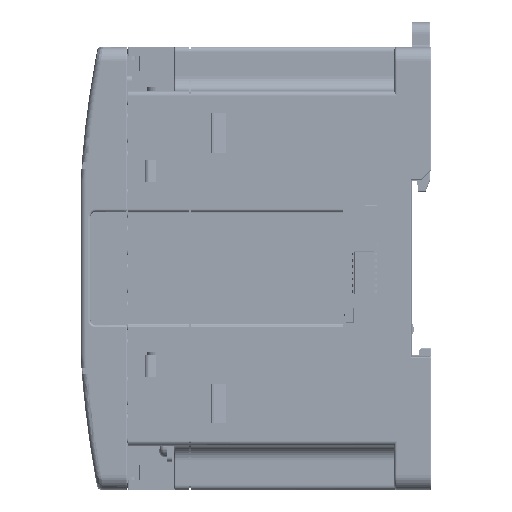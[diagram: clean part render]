
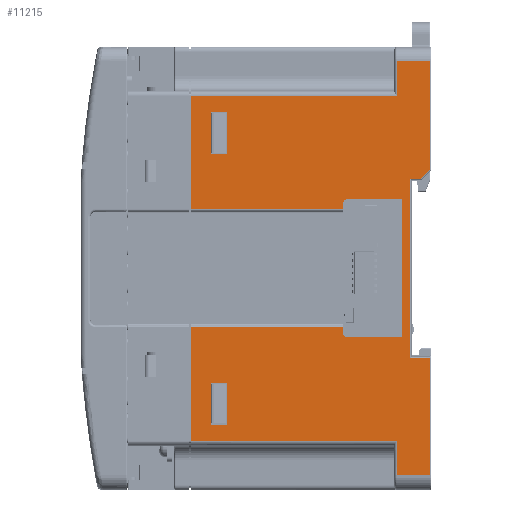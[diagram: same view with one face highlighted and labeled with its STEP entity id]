
A CAD part, left-side view. The second image highlights one B-rep face of the part: STEP entity #11215.
In plain terms, the highlighted planar face has unit normal (-1, 0, 0).
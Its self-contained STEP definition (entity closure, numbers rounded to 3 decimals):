
#285=DIRECTION('',(0.,-1.,0.));
#286=VECTOR('',#285,3.3);
#287=CARTESIAN_POINT('',(-32.,44.8,-31.75));
#288=LINE('',#287,#286);
#289=DIRECTION('',(0.,0.,1.));
#290=VECTOR('',#289,8.5);
#291=CARTESIAN_POINT('',(-32.,41.5,-31.75));
#292=LINE('',#291,#290);
#293=DIRECTION('',(0.,1.,0.));
#294=VECTOR('',#293,3.3);
#295=CARTESIAN_POINT('',(-32.,41.5,-23.25));
#296=LINE('',#295,#294);
#297=DIRECTION('',(0.,0.,-1.));
#298=VECTOR('',#297,8.5);
#299=CARTESIAN_POINT('',(-32.,44.8,-23.25));
#300=LINE('',#299,#298);
#301=DIRECTION('',(0.,0.,-1.));
#302=VECTOR('',#301,8.5);
#303=CARTESIAN_POINT('',(-32.,44.8,31.75));
#304=LINE('',#303,#302);
#305=DIRECTION('',(0.,-1.,0.));
#306=VECTOR('',#305,3.3);
#307=CARTESIAN_POINT('',(-32.,44.8,23.25));
#308=LINE('',#307,#306);
#309=DIRECTION('',(0.,0.,1.));
#310=VECTOR('',#309,8.5);
#311=CARTESIAN_POINT('',(-32.,41.5,23.25));
#312=LINE('',#311,#310);
#313=DIRECTION('',(0.,1.,0.));
#314=VECTOR('',#313,3.3);
#315=CARTESIAN_POINT('',(-32.,41.5,31.75));
#316=LINE('',#315,#314);
#317=DIRECTION('',(0.,0.,1.));
#318=VECTOR('',#317,7.);
#319=CARTESIAN_POINT('',(-32.,7.,-42.));
#320=LINE('',#319,#318);
#321=DIRECTION('',(0.,0.,1.));
#322=VECTOR('',#321,23.);
#323=CARTESIAN_POINT('',(-32.,48.7,-35.));
#324=LINE('',#323,#322);
#325=DIRECTION('',(0.,1.,0.));
#326=VECTOR('',#325,30.7);
#327=CARTESIAN_POINT('',(-32.,18.,-12.));
#328=LINE('',#327,#326);
#329=DIRECTION('',(0.,0.,-1.));
#330=VECTOR('',#329,1.);
#331=CARTESIAN_POINT('',(-32.,18.,-12.));
#332=LINE('',#331,#330);
#333=DIRECTION('',(0.,-1.,0.));
#334=VECTOR('',#333,11.);
#335=CARTESIAN_POINT('',(-32.,17.,-14.));
#336=LINE('',#335,#334);
#337=DIRECTION('',(0.,0.,1.));
#338=VECTOR('',#337,28.);
#339=CARTESIAN_POINT('',(-32.,6.,-14.));
#340=LINE('',#339,#338);
#341=DIRECTION('',(0.,1.,0.));
#342=VECTOR('',#341,11.);
#343=CARTESIAN_POINT('',(-32.,6.,14.));
#344=LINE('',#343,#342);
#345=DIRECTION('',(0.,0.,-1.));
#346=VECTOR('',#345,1.);
#347=CARTESIAN_POINT('',(-32.,18.,13.));
#348=LINE('',#347,#346);
#349=DIRECTION('',(0.,-1.,0.));
#350=VECTOR('',#349,30.7);
#351=CARTESIAN_POINT('',(-32.,48.7,12.));
#352=LINE('',#351,#350);
#353=DIRECTION('',(0.,0.,1.));
#354=VECTOR('',#353,23.);
#355=CARTESIAN_POINT('',(-32.,48.7,12.));
#356=LINE('',#355,#354);
#357=DIRECTION('',(0.,0.,1.));
#358=VECTOR('',#357,7.);
#359=CARTESIAN_POINT('',(-32.,7.,35.));
#360=LINE('',#359,#358);
#361=DIRECTION('',(0.,0.,-1.));
#362=VECTOR('',#361,21.976);
#363=CARTESIAN_POINT('',(-32.,0.3,42.));
#364=LINE('',#363,#362);
#365=DIRECTION('',(0.,0.707,-0.707));
#366=VECTOR('',#365,2.58);
#367=CARTESIAN_POINT('',(-32.,0.3,20.024));
#368=LINE('',#367,#366);
#369=DIRECTION('',(0.,1.,0.));
#370=VECTOR('',#369,2.176);
#371=CARTESIAN_POINT('',(-32.,2.124,18.2));
#372=LINE('',#371,#370);
#373=DIRECTION('',(0.,0.,1.));
#374=VECTOR('',#373,36.4);
#375=CARTESIAN_POINT('',(-32.,4.3,-18.2));
#376=LINE('',#375,#374);
#377=DIRECTION('',(0.,1.,0.));
#378=VECTOR('',#377,4.);
#379=CARTESIAN_POINT('',(-32.,0.3,-18.2));
#380=LINE('',#379,#378);
#381=DIRECTION('',(0.,0.,-1.));
#382=VECTOR('',#381,23.8);
#383=CARTESIAN_POINT('',(-32.,0.3,-18.2));
#384=LINE('',#383,#382);
#1020=CARTESIAN_POINT('',(-32.,17.,13.));
#1021=DIRECTION('',(1.,0.,0.));
#1022=DIRECTION('',(0.,1.,0.));
#1023=AXIS2_PLACEMENT_3D('',#1020,#1021,#1022);
#4513=DIRECTION('',(0.,1.,0.));
#4514=VECTOR('',#4513,6.7);
#4515=CARTESIAN_POINT('',(-32.,0.3,42.));
#4516=LINE('',#4515,#4514);
#7522=DIRECTION('',(0.,-1.,0.));
#7523=VECTOR('',#7522,6.7);
#7524=CARTESIAN_POINT('',(-32.,7.,-42.));
#7525=LINE('',#7524,#7523);
#7591=DIRECTION('',(0.,-1.,0.));
#7592=VECTOR('',#7591,41.7);
#7593=CARTESIAN_POINT('',(-32.,48.7,-35.));
#7594=LINE('',#7593,#7592);
#7891=DIRECTION('',(0.,1.,0.));
#7892=VECTOR('',#7891,41.7);
#7893=CARTESIAN_POINT('',(-32.,7.,35.));
#7894=LINE('',#7893,#7892);
#8131=CARTESIAN_POINT('',(-32.,17.,-13.));
#8132=DIRECTION('',(1.,0.,0.));
#8133=DIRECTION('',(0.,0.,-1.));
#8134=AXIS2_PLACEMENT_3D('',#8131,#8132,#8133);
#8512=CARTESIAN_POINT('',(-32.,6.,-14.));
#8513=CARTESIAN_POINT('',(-32.,6.,14.));
#8514=VERTEX_POINT('',#8512);
#8515=VERTEX_POINT('',#8513);
#9200=CARTESIAN_POINT('',(-32.,44.8,-31.75));
#9201=CARTESIAN_POINT('',(-32.,41.5,-31.75));
#9202=VERTEX_POINT('',#9200);
#9203=VERTEX_POINT('',#9201);
#9204=CARTESIAN_POINT('',(-32.,41.5,-23.25));
#9205=VERTEX_POINT('',#9204);
#9206=CARTESIAN_POINT('',(-32.,44.8,-23.25));
#9207=VERTEX_POINT('',#9206);
#9208=CARTESIAN_POINT('',(-32.,44.8,31.75));
#9209=CARTESIAN_POINT('',(-32.,44.8,23.25));
#9210=VERTEX_POINT('',#9208);
#9211=VERTEX_POINT('',#9209);
#9212=CARTESIAN_POINT('',(-32.,41.5,23.25));
#9213=VERTEX_POINT('',#9212);
#9214=CARTESIAN_POINT('',(-32.,41.5,31.75));
#9215=VERTEX_POINT('',#9214);
#9940=CARTESIAN_POINT('',(-32.,17.,-14.));
#9942=VERTEX_POINT('',#9940);
#9944=CARTESIAN_POINT('',(-32.,18.,-13.));
#9946=VERTEX_POINT('',#9944);
#9948=CARTESIAN_POINT('',(-32.,18.,13.));
#9950=VERTEX_POINT('',#9948);
#9952=CARTESIAN_POINT('',(-32.,17.,14.));
#9954=VERTEX_POINT('',#9952);
#10123=CARTESIAN_POINT('',(-32.,18.,-12.));
#10125=VERTEX_POINT('',#10123);
#10126=CARTESIAN_POINT('',(-32.,18.,12.));
#10128=VERTEX_POINT('',#10126);
#10230=CARTESIAN_POINT('',(-32.,48.7,-35.));
#10231=CARTESIAN_POINT('',(-32.,48.7,-12.));
#10232=VERTEX_POINT('',#10230);
#10233=VERTEX_POINT('',#10231);
#10234=CARTESIAN_POINT('',(-32.,48.7,12.));
#10235=CARTESIAN_POINT('',(-32.,48.7,35.));
#10236=VERTEX_POINT('',#10234);
#10237=VERTEX_POINT('',#10235);
#10424=CARTESIAN_POINT('',(-32.,0.3,-42.));
#10425=VERTEX_POINT('',#10424);
#10496=CARTESIAN_POINT('',(-32.,0.3,42.));
#10497=VERTEX_POINT('',#10496);
#10550=CARTESIAN_POINT('',(-32.,0.3,20.024));
#10551=VERTEX_POINT('',#10550);
#10554=CARTESIAN_POINT('',(-32.,2.124,18.2));
#10555=VERTEX_POINT('',#10554);
#10558=CARTESIAN_POINT('',(-32.,4.3,18.2));
#10559=VERTEX_POINT('',#10558);
#10564=CARTESIAN_POINT('',(-32.,4.3,-18.2));
#10565=VERTEX_POINT('',#10564);
#10567=CARTESIAN_POINT('',(-32.,0.3,-18.2));
#10569=VERTEX_POINT('',#10567);
#10770=CARTESIAN_POINT('',(-32.,7.,-42.));
#10771=CARTESIAN_POINT('',(-32.,7.,-35.));
#10772=VERTEX_POINT('',#10770);
#10773=VERTEX_POINT('',#10771);
#10796=CARTESIAN_POINT('',(-32.,7.,42.));
#10797=VERTEX_POINT('',#10796);
#10800=CARTESIAN_POINT('',(-32.,7.,35.));
#10801=VERTEX_POINT('',#10800);
#11143=CARTESIAN_POINT('',(-32.,0.,-45.));
#11144=DIRECTION('',(-1.,0.,0.));
#11145=DIRECTION('',(0.,0.,1.));
#11146=AXIS2_PLACEMENT_3D('',#11143,#11144,#11145);
#11147=PLANE('',#11146);
#11148=ORIENTED_EDGE('',*,*,#11133,.T.);
#11150=ORIENTED_EDGE('',*,*,#11149,.F.);
#11152=ORIENTED_EDGE('',*,*,#11151,.T.);
#11154=ORIENTED_EDGE('',*,*,#11153,.F.);
#11156=ORIENTED_EDGE('',*,*,#11155,.T.);
#11158=ORIENTED_EDGE('',*,*,#11157,.F.);
#11160=ORIENTED_EDGE('',*,*,#11159,.T.);
#11162=ORIENTED_EDGE('',*,*,#11161,.T.);
#11164=ORIENTED_EDGE('',*,*,#11163,.T.);
#11166=ORIENTED_EDGE('',*,*,#11165,.F.);
#11168=ORIENTED_EDGE('',*,*,#11167,.T.);
#11170=ORIENTED_EDGE('',*,*,#11169,.F.);
#11172=ORIENTED_EDGE('',*,*,#11171,.T.);
#11174=ORIENTED_EDGE('',*,*,#11173,.F.);
#11176=ORIENTED_EDGE('',*,*,#11175,.T.);
#11178=ORIENTED_EDGE('',*,*,#11177,.F.);
#11180=ORIENTED_EDGE('',*,*,#11179,.T.);
#11182=ORIENTED_EDGE('',*,*,#11181,.T.);
#11184=ORIENTED_EDGE('',*,*,#11183,.T.);
#11186=ORIENTED_EDGE('',*,*,#11185,.F.);
#11188=ORIENTED_EDGE('',*,*,#11187,.F.);
#11190=ORIENTED_EDGE('',*,*,#11189,.T.);
#11192=ORIENTED_EDGE('',*,*,#11191,.F.);
#11193=EDGE_LOOP('',(#11148,#11150,#11152,#11154,#11156,#11158,#11160,#11162,
#11164,#11166,#11168,#11170,#11172,#11174,#11176,#11178,#11180,#11182,#11184,
#11186,#11188,#11190,#11192));
#11194=FACE_OUTER_BOUND('',#11193,.F.);
#11196=ORIENTED_EDGE('',*,*,#11195,.T.);
#11198=ORIENTED_EDGE('',*,*,#11197,.T.);
#11200=ORIENTED_EDGE('',*,*,#11199,.T.);
#11202=ORIENTED_EDGE('',*,*,#11201,.T.);
#11203=EDGE_LOOP('',(#11196,#11198,#11200,#11202));
#11204=FACE_BOUND('',#11203,.F.);
#11206=ORIENTED_EDGE('',*,*,#11205,.T.);
#11208=ORIENTED_EDGE('',*,*,#11207,.T.);
#11210=ORIENTED_EDGE('',*,*,#11209,.T.);
#11212=ORIENTED_EDGE('',*,*,#11211,.T.);
#11213=EDGE_LOOP('',(#11206,#11208,#11210,#11212));
#11214=FACE_BOUND('',#11213,.F.);
#11215=ADVANCED_FACE('',(#11194,#11204,#11214),#11147,.T.);
#1024=CIRCLE('',#1023,1.);
#8135=CIRCLE('',#8134,1.);
#11133=EDGE_CURVE('',#10772,#10773,#320,.T.);
#11149=EDGE_CURVE('',#10232,#10773,#7594,.T.);
#11151=EDGE_CURVE('',#10232,#10233,#324,.T.);
#11153=EDGE_CURVE('',#10125,#10233,#328,.T.);
#11155=EDGE_CURVE('',#10125,#9946,#332,.T.);
#11157=EDGE_CURVE('',#9942,#9946,#8135,.T.);
#11159=EDGE_CURVE('',#9942,#8514,#336,.T.);
#11161=EDGE_CURVE('',#8514,#8515,#340,.T.);
#11163=EDGE_CURVE('',#8515,#9954,#344,.T.);
#11165=EDGE_CURVE('',#9950,#9954,#1024,.T.);
#11167=EDGE_CURVE('',#9950,#10128,#348,.T.);
#11169=EDGE_CURVE('',#10236,#10128,#352,.T.);
#11171=EDGE_CURVE('',#10236,#10237,#356,.T.);
#11173=EDGE_CURVE('',#10801,#10237,#7894,.T.);
#11175=EDGE_CURVE('',#10801,#10797,#360,.T.);
#11177=EDGE_CURVE('',#10497,#10797,#4516,.T.);
#11179=EDGE_CURVE('',#10497,#10551,#364,.T.);
#11181=EDGE_CURVE('',#10551,#10555,#368,.T.);
#11183=EDGE_CURVE('',#10555,#10559,#372,.T.);
#11185=EDGE_CURVE('',#10565,#10559,#376,.T.);
#11187=EDGE_CURVE('',#10569,#10565,#380,.T.);
#11189=EDGE_CURVE('',#10569,#10425,#384,.T.);
#11191=EDGE_CURVE('',#10772,#10425,#7525,.T.);
#11195=EDGE_CURVE('',#9210,#9211,#304,.T.);
#11197=EDGE_CURVE('',#9211,#9213,#308,.T.);
#11199=EDGE_CURVE('',#9213,#9215,#312,.T.);
#11201=EDGE_CURVE('',#9215,#9210,#316,.T.);
#11205=EDGE_CURVE('',#9202,#9203,#288,.T.);
#11207=EDGE_CURVE('',#9203,#9205,#292,.T.);
#11209=EDGE_CURVE('',#9205,#9207,#296,.T.);
#11211=EDGE_CURVE('',#9207,#9202,#300,.T.);
